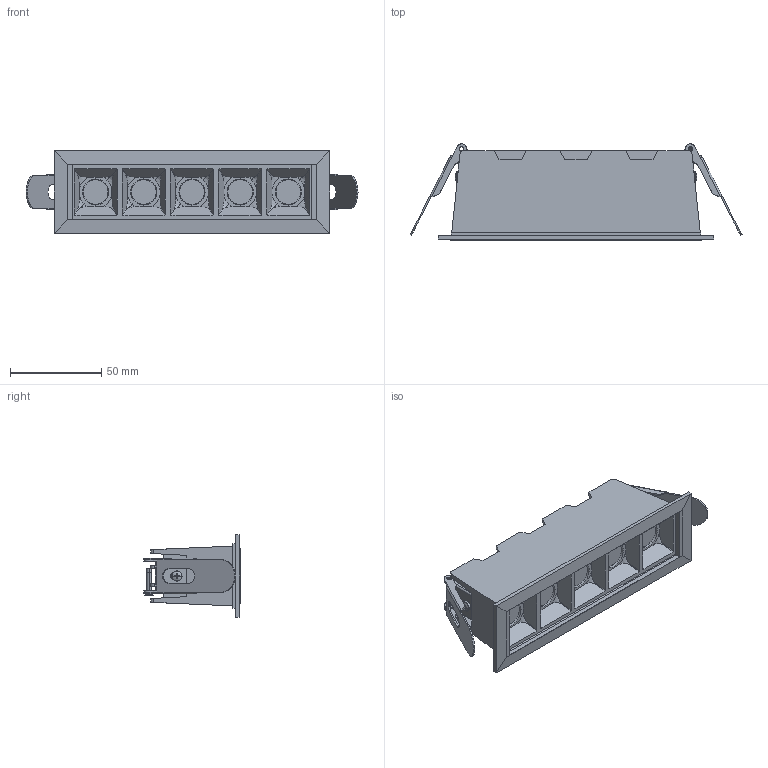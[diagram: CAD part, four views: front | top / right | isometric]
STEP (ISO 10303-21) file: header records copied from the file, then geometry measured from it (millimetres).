
FILE_DESCRIPTION (( 'STEP AP203' ), '1' );
FILE_NAME ('XR178__.014.____.STEP', '2025-05-30T12:07:11', ( '' ), ( '' ), 'SwSTEP 2.0', 'SolidWorks 2024', '' );
FILE_SCHEMA (( 'CONFIG_CONTROL_DESIGN' ));
Length unit declared in the file: millimetre
Products named in the file (13): 4101.0141000.00 (scheda LED lineare 124x21mm H 1,7mm Bridgelux SMD 3535-DS880)_4101.0141041.00; 5200.0029000.00 (clip di fissaggio a molla ACC 58x18mm sp 0,8)_5200.0029002.00; 4504.0030000.00 (bloccacavo rettangolare PC 8,9x17mm H 5,80mm con foro M3)_4504.0030000.00; 3300.0423000.00 (corpo pressofuso ALL H 49mm)_3307.0423005.00; pan head cross recess screw_iso_ISO 7045 - M2 x 16 - Z - 16N; 4902.0011000.00 (elemento di chiusura frontale PC con innesto lente)_4902.0011005.00; XR178__.014.____; 120 deg ctsk semi-tubular rivets gb_GB_RIVETS_COUNTERSUNK_TYPE84 2.5X15; pan head cross recess screw_iso_ISO 7045 - M3 x 5 - Z - 5N; 3100.0094000.00 (modulo lineare fascio largo PMMA H 1,4mm)_3101.0094005.00; 5200.0029000.00 (clip di fissaggio a molla ACC 58x18mm sp 0,8)_5200.0029001.00; 4902.0012000.00 (riflettore con innesto PC 24,9mm H 12,1mm modulare)_4902.0012005.00; countersunk flat head cross recess screw_iso_ISO 7046-1 - M3 x 8 - Z - 8N
Assembly tree (18 placements, depth 2):
  XR178__.014.____
    3300.0423000.00 (corpo pressofuso ALL H 49mm)_3307.0423005.00
    4902.0012000.00 (riflettore con innesto PC 24,9mm H 12,1mm modulare)_4902.0012005.00
    4902.0011000.00 (elemento di chiusura frontale PC con innesto lente)_4902.0011005.00
    4101.0141000.00 (scheda LED lineare 124x21mm H 1,7mm Bridgelux SMD 3535-DS880)_4101.0141041.00
    pan head cross recess screw_iso_ISO 7045 - M2 x 16 - Z - 16N  x4
    3100.0094000.00 (modulo lineare fascio largo PMMA H 1,4mm)_3101.0094005.00
    5200.0029000.00 (clip di fissaggio a molla ACC 58x18mm sp 0,8)_5200.0029001.00  x2
    5200.0029000.00 (clip di fissaggio a molla ACC 58x18mm sp 0,8)_5200.0029002.00  x2
    120 deg ctsk semi-tubular rivets gb_GB_RIVETS_COUNTERSUNK_TYPE84 2.5X15
    pan head cross recess screw_iso_ISO 7045 - M3 x 5 - Z - 5N  x2
    4504.0030000.00 (bloccacavo rettangolare PC 8,9x17mm H 5,80mm con foro M3)_4504.0030000.00
    countersunk flat head cross recess screw_iso_ISO 7046-1 - M3 x 8 - Z - 8N
Bounding box: 181.89 x 52.65 x 45 mm (x, y, z)
Volume: 89416 mm3; surface area: 90947 mm2
Topology: 19 solids, 19 shells, 1693 faces, 4531 edges, 2882 vertices
Faces by surface type: plane 948, cylinder 403, cone 191, bspline 71, torus 58, sphere 22
Entity records: 58502 total; most frequent: CARTESIAN_POINT 21863, ORIENTED_EDGE 7534, DIRECTION 7133, EDGE_CURVE 3767, VERTEX_POINT 2438, AXIS2_PLACEMENT_3D 2408, LINE 2317, VECTOR 2317
